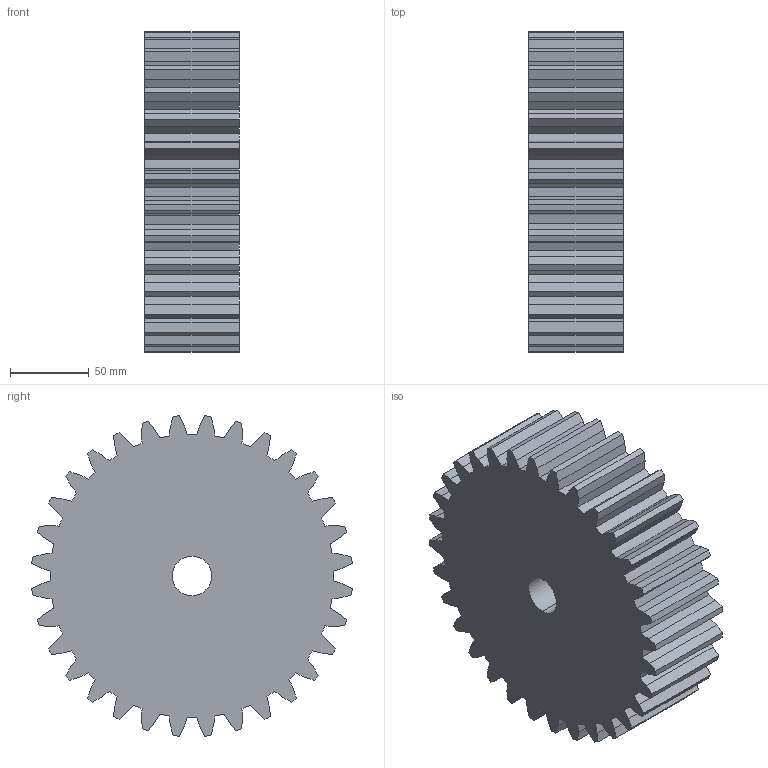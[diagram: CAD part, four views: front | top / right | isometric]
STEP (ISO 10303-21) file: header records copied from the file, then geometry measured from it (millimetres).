
FILE_DESCRIPTION (( 'STEP AP203' ), '1' );
FILE_NAME ('CM 34032.STEP', '2013-09-23T11:41:24', ( '' ), ( '' ), 'SwSTEP 2.0', 'SolidWorks 2010', '' );
FILE_SCHEMA (( 'CONFIG_CONTROL_DESIGN' ));
Length unit declared in the file: millimetre
Products named in the file (1): CM 34032
Bounding box: 60 x 203.37 x 203.37 mm (x, y, z)
Volume: 1687847.8 mm3; surface area: 129113.5 mm2
Topology: 1 solids, 1 shells, 196 faces, 582 edges, 388 vertices
Faces by surface type: plane 130, cylinder 66
Entity records: 6895 total; most frequent: CARTESIAN_POINT 2151, ORIENTED_EDGE 1164, DIRECTION 708, EDGE_CURVE 582, VERTEX_POINT 388, B_SPLINE_CURVE_WITH_KNOTS 328, AXIS2_PLACEMENT_3D 257, EDGE_LOOP 198
